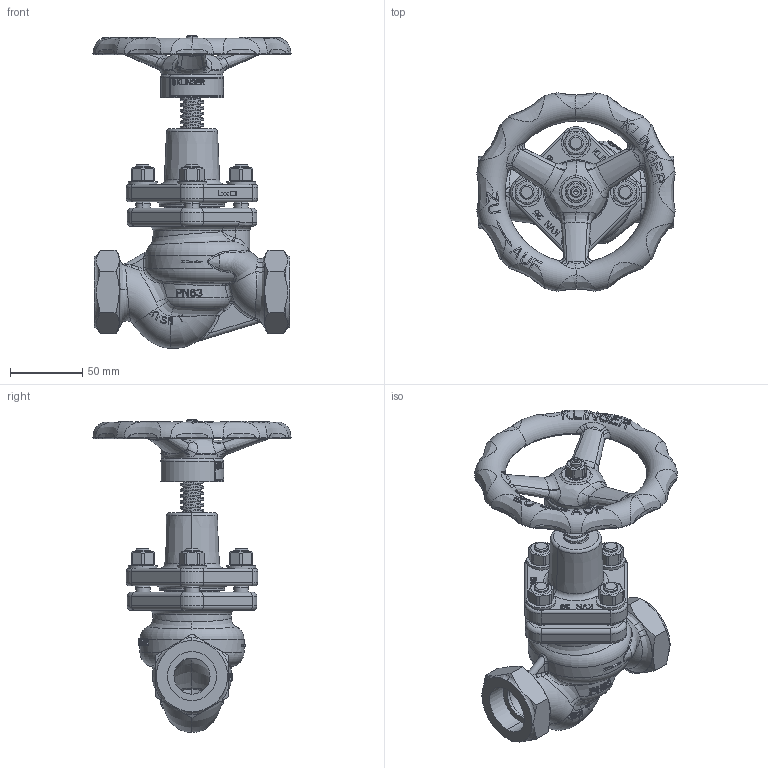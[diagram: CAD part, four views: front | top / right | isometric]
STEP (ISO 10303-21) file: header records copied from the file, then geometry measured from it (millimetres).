
FILE_DESCRIPTION((''),'2;1');
FILE_NAME('KVSN-S1-S-----P063PGG_SW0001','2018-12-12T11:21:29',('jeitlers'),('KLINGER'),'CREO PARAMETRIC BY PTC INC, 2018190','CREO PARAMETRIC BY PTC INC, 2018190','');
FILE_SCHEMA(('AUTOMOTIVE_DESIGN { 1 0 10303 214 1 1 1 1 }'));
Length unit declared in the file: millimetre
Products named in the file (1): KVSN-S1-S-----P063PGG_SW0001
Bounding box: 137.21 x 137.21 x 216.5 mm (x, y, z)
Volume: 474578.5 mm3; surface area: 142507.1 mm2
Topology: 3 solids, 11 shells, 2954 faces, 7955 edges, 5086 vertices
Faces by surface type: plane 1752, bspline 520, cylinder 352, torus 196, cone 116, extrusion 12, sphere 6
Entity records: 177806 total; most frequent: CARTESIAN_POINT 109608, ORIENTED_EDGE 15902, DIRECTION 11352, EDGE_CURVE 7951, VERTEX_POINT 5086, AXIS2_PLACEMENT_3D 3894, VECTOR 3561, LINE 3549
